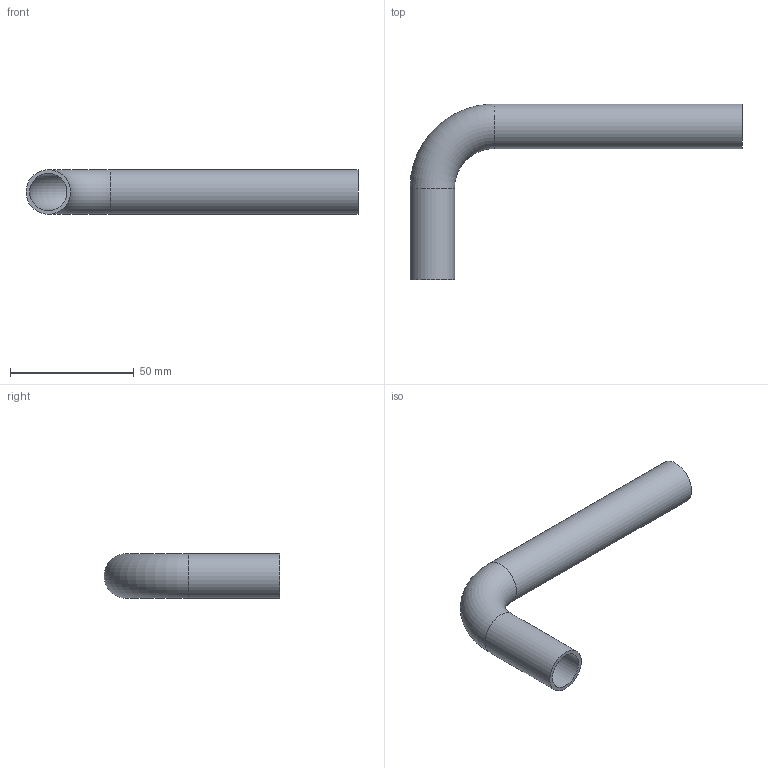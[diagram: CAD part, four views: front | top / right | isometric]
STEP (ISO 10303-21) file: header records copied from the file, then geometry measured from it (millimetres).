
FILE_DESCRIPTION((''),'2;1');
FILE_NAME('G:\Technics\CAD\Bauteile\018\6900318(0).stp','2008-01-31T09:29:18',('herberg'),(''),'Autodesk Inventor 2008','Autodesk Inventor 2008','');
FILE_SCHEMA(('AUTOMOTIVE_DESIGN { 1 0 10303 214 1 1 1 1 }'));
Length unit declared in the file: millimetre
Products named in the file (1): 6900318(0)
Bounding box: 134 x 71 x 18 mm (x, y, z)
Volume: 13705.8 mm3; surface area: 18429.9 mm2
Topology: 1 solids, 1 shells, 8 faces, 14 edges, 8 vertices
Faces by surface type: cylinder 4, torus 2, plane 2
Full cylindrical faces by diameter (mm): 15 x2, 18 x2
Entity records: 194 total; most frequent: DIRECTION 34, CARTESIAN_POINT 25, AXIS2_PLACEMENT_3D 17, ORIENTED_EDGE 16, EDGE_LOOP 16, VERTEX_POINT 8, CIRCLE 8, EDGE_CURVE 8
